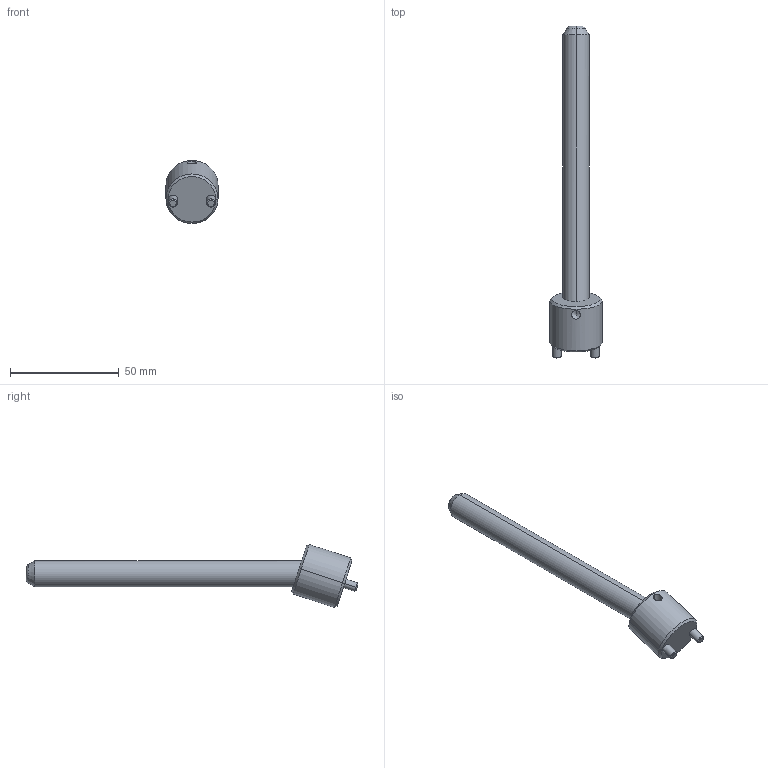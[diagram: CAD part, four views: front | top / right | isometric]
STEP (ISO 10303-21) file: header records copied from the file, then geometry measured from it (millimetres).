
FILE_DESCRIPTION(('CATIA V5 STEP Exchange'),'2;1');
FILE_NAME('C:\Users\Raffaele\Desktop\3D BOLEX\3D FILES CF BOLEX\19-INCLINED ASSEMBLY REF_CI\CI1812125.stp','2019-06-24T07:42:07+00:00',('none'),('none'),'CATIA Version 5 Release 20 GA (IN-10)','CATIA V5 STEP AP203','none');
FILE_SCHEMA(('CONFIG_CONTROL_DESIGN'));
Length unit declared in the file: millimetre
Products named in the file (1): CI1812125
Assembly tree (2 placements, depth 2):
  CI1812125
    #58
    #578
Bounding box: 24 x 152.87 x 29.01 mm (x, y, z)
Volume: 23853.9 mm3; surface area: 8902.4 mm2
Topology: 2 solids, 2 shells, 39 faces, 82 edges, 47 vertices
Faces by surface type: cone 14, cylinder 14, plane 7, torus 4
Entity records: 1470 total; most frequent: CARTESIAN_POINT 611, ORIENTED_EDGE 160, DIRECTION 145, EDGE_CURVE 80, AXIS2_PLACEMENT_3D 72, VERTEX_POINT 47, EDGE_LOOP 43, ADVANCED_FACE 39
